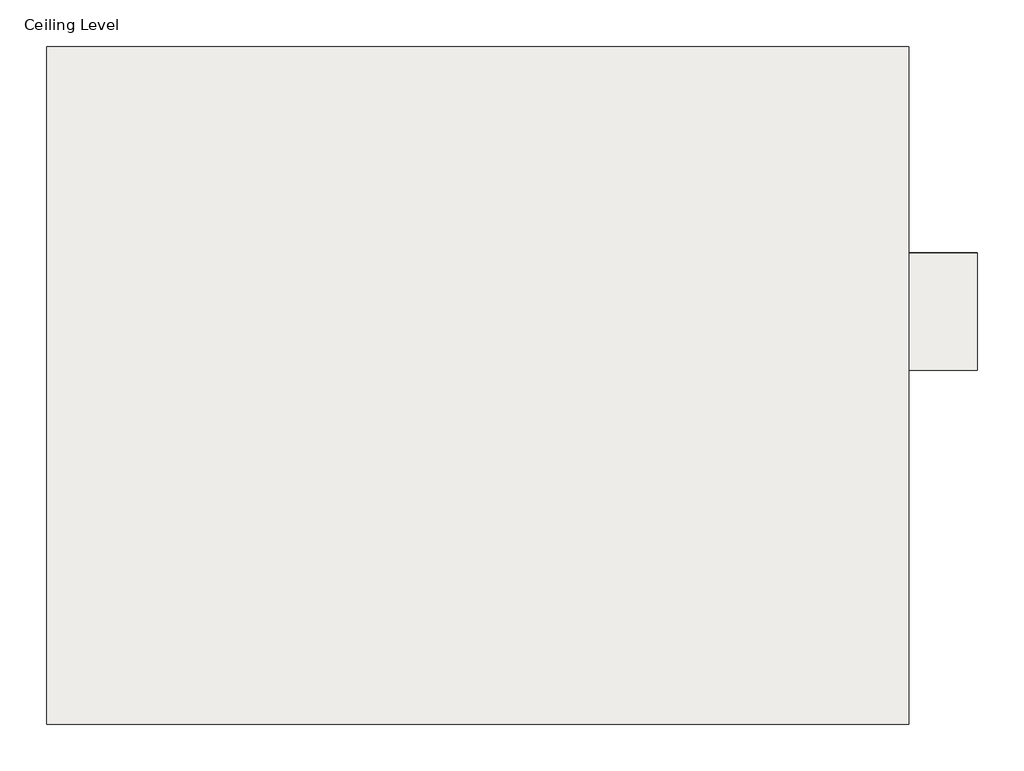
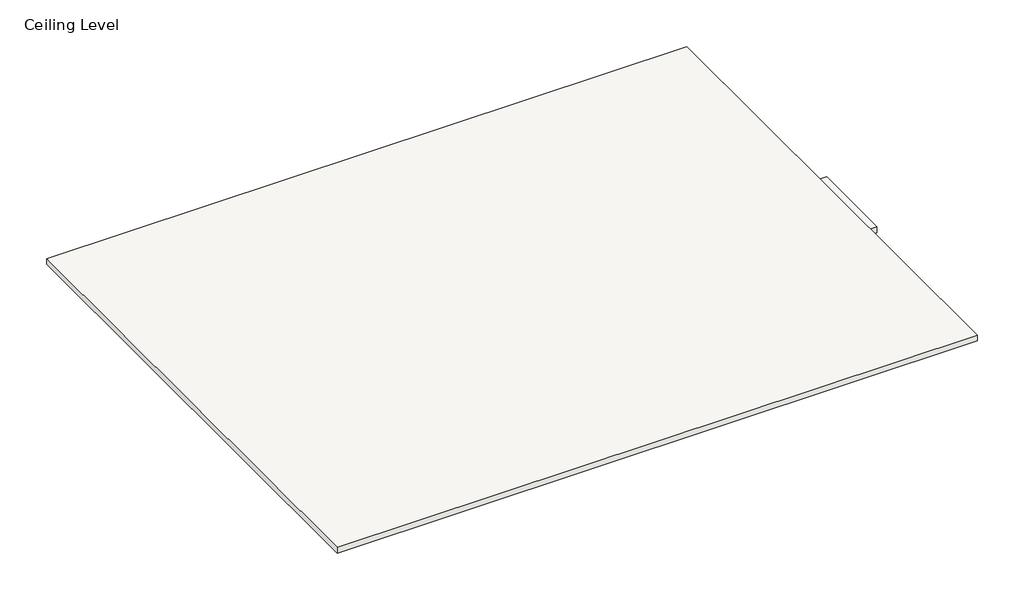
# One storey: 5 coverings.
"""IFC4 building model written with IfcOpenShell, lengths in millimetres."""

import ifcopenshell
import ifcopenshell.guid

model = None  # the IFC model being written
_history = None  # IfcOwnerHistory: only IFC2X3 demands one
_inside = {}  # id of a spatial element -> (the spatial element, [elements in it])
_under = {}  # id of a project, library or spatial element -> (it, [spatial elements below it])
_declared = {}  # id of a project -> (the project, [libraries it declares])
_typed = {}  # id of a type object -> (the type object, [elements of that type])
_made_of = {}  # id of a material, layer set ... -> (it, [elements and type objects made of it])


def new_model(schema):
    """Start an empty IFC model of exactly this schema.

    Asked for "IFC4X3", IfcOpenShell would pick the latest addendum, in which some entities
    have other attributes; the version numbers below select the first issue.
    IFC2X3 requires an IfcOwnerHistory on every rooted entity: one is made here for all.
    """
    global model, _history
    if schema == "IFC4X3":
        model = ifcopenshell.file(schema_version=(4, 3, 0, 0))
    else:
        model = ifcopenshell.file(schema=schema)
    _inside.clear()
    _under.clear()
    _declared.clear()
    _typed.clear()
    _made_of.clear()
    _history = None
    if model.schema == "IFC2X3":
        org = make("IfcOrganization", Name="unknown")
        user = make(
            "IfcPersonAndOrganization",
            ThePerson=make("IfcPerson", FamilyName="unknown"),
            TheOrganization=org,
        )
        app = make(
            "IfcApplication",
            ApplicationDeveloper=org,
            Version="unknown",
            ApplicationFullName="unknown",
            ApplicationIdentifier="unknown",
        )
        _history = make(
            "IfcOwnerHistory",
            OwningUser=user,
            OwningApplication=app,
            ChangeAction="ADDED",
            CreationDate=0,
        )
    return model


def make(cls, **values):
    """One entity of the class cls with the attributes given. An attribute that is None is left unset."""
    return model.create_entity(
        cls, **{name: value for name, value in values.items() if value is not None}
    )


def rooted(cls, **values):
    """An entity with a GlobalId (a new one), such as an element, a storey or a relation."""
    return make(cls, GlobalId=ifcopenshell.guid.new(), OwnerHistory=_history, **values)


def si_unit(unit_type, name, prefix=None):
    """IfcSIUnit, for example si_unit("LENGTHUNIT", "METRE", prefix="MILLI")."""
    return make("IfcSIUnit", UnitType=unit_type, Prefix=prefix, Name=name)


def assignment(units):
    """IfcUnitAssignment: the units of a project."""
    return None if units is None else make("IfcUnitAssignment", Units=units)


def point(xyz):
    """IfcCartesianPoint."""
    return None if xyz is None else make("IfcCartesianPoint", Coordinates=xyz)


def direction(xyz):
    """IfcDirection."""
    return None if xyz is None else make("IfcDirection", DirectionRatios=xyz)


def frame(location, z_axis=None, x_axis=None):
    """IfcAxis2Placement3D, a coordinate frame: its origin and axes. An axis left out is left unset."""
    return make(
        "IfcAxis2Placement3D",
        Location=point(location),
        Axis=direction(z_axis),
        RefDirection=direction(x_axis),
    )


def origin():
    """The frame at (0, 0, 0) with its axes left unset."""
    return frame((0.0, 0.0, 0.0))


def place(relative_to, where):
    """IfcLocalPlacement: puts the frame where relative to a parent placement (None: the world)."""
    return make(
        "IfcLocalPlacement", PlacementRelTo=relative_to, RelativePlacement=where
    )


def context(
    kind, dimensions, precision=None, world=None, true_north=None, identifier=None
):
    """IfcGeometricRepresentationContext, for example the 3D "Model" context."""
    return make(
        "IfcGeometricRepresentationContext",
        ContextIdentifier=identifier,
        ContextType=kind,
        CoordinateSpaceDimension=dimensions,
        Precision=precision,
        WorldCoordinateSystem=world,
        TrueNorth=true_north,
    )


def project(units=None, contexts=None):
    """IfcProject with its units and contexts."""
    return rooted(
        "IfcProject",
        Name="project",
        RepresentationContexts=contexts,
        UnitsInContext=assignment(units),
    )


def spatial(cls, under=None, at=None, **own):
    """A site, building, storey or space (cls), placed at a placement, below another one or the project."""
    s = rooted(cls, ObjectPlacement=at, **own)
    if under is not None:
        _under.setdefault(under.id(), (under, []))[1].append(s)
    return s


def polyline(points):
    """IfcPolyline through the points."""
    return make("IfcPolyline", Points=[point(p) for p in points])


def outline(outer, holes=None, kind="AREA"):
    """IfcArbitraryClosedProfileDef: a profile drawn as a closed curve; with holes, ...WithVoids."""
    if holes is None:
        return make("IfcArbitraryClosedProfileDef", ProfileType=kind, OuterCurve=outer)
    return make(
        "IfcArbitraryProfileDefWithVoids",
        ProfileType=kind,
        OuterCurve=outer,
        InnerCurves=holes,
    )


def extrude(swept, where, along, depth):
    """IfcExtrudedAreaSolid: the profile swept, set in the frame where, extruded along a direction by depth."""
    return make(
        "IfcExtrudedAreaSolid",
        SweptArea=swept,
        Position=where,
        ExtrudedDirection=direction(along),
        Depth=depth,
    )


def shape(context_of_items, identifier, shape_type, items):
    """IfcShapeRepresentation: the items that make up one representation, for example the "Body"."""
    return make(
        "IfcShapeRepresentation",
        ContextOfItems=context_of_items,
        RepresentationIdentifier=identifier,
        RepresentationType=shape_type,
        Items=items,
    )


def made_of(thing, what):
    """Note that an element or type object is made of a material, layer set ...; save() writes the relation."""
    if what is not None:
        _made_of.setdefault(what.id(), (what, []))[1].append(thing)
    return thing


def element(
    cls,
    number,
    at=None,
    inside=None,
    cuts=None,
    type_object=None,
    material=None,
    context=None,
    identifier="Body",
    shape_type=None,
    held_by="IfcProductDefinitionShape",
    body=None,
    shapes=None,
    **own,
):
    """One element of the class cls, such as IfcWall. Its Tag is "e" and its number.

    at: its placement. inside: the storey or other place that contains it. cuts: it is an
    opening in that element (IfcRelVoidsElement). A single representation is given by context,
    identifier, shape_type and body (its items); several are given by shapes. held_by: the class
    of the entity that holds the representations. save() writes the other relations.
    """
    e = rooted(cls, Tag="e%d" % number, ObjectPlacement=at, **own)
    if body is not None:
        shapes = [shape(context, identifier, shape_type, body)]
    if shapes is not None:
        e.Representation = make(held_by, Representations=shapes)
    if inside is not None:
        _inside.setdefault(inside.id(), (inside, []))[1].append(e)
    if cuts is not None:
        rooted(
            "IfcRelVoidsElement", RelatingBuildingElement=cuts, RelatedOpeningElement=e
        )
    if type_object is not None:
        _typed.setdefault(type_object.id(), (type_object, []))[1].append(e)
    return made_of(e, material)


def aggregate(whole, parts):
    """IfcRelAggregates: a whole, such as a stair, and the parts it consists of."""
    return rooted("IfcRelAggregates", RelatingObject=whole, RelatedObjects=parts)


def save(model, path):
    """Write the relations noted so far, then the file.

    IfcRelAggregates (storeys below a building ...), IfcRelContainedInSpatialStructure (elements
    in a storey), IfcRelDefinesByType, IfcRelAssociatesMaterial and IfcRelDeclares: one each for
    every whole, place, type object, material and project.
    """
    for whole, parts in _under.values():
        aggregate(whole, parts)
    for where, things in _inside.values():
        rooted(
            "IfcRelContainedInSpatialStructure",
            RelatedElements=things,
            RelatingStructure=where,
        )
    for kind, things in _typed.values():
        rooted("IfcRelDefinesByType", RelatedObjects=things, RelatingType=kind)
    for what, things in _made_of.values():
        rooted("IfcRelAssociatesMaterial", RelatedObjects=things, RelatingMaterial=what)
    for by, libraries in _declared.values():
        rooted("IfcRelDeclares", RelatingContext=by, RelatedDefinitions=libraries)
    model.write(path)


model = new_model("IFC4")

# Units and contexts
model_context = context("Model", 3, world=origin())
ifc_project = project(units=[si_unit("LENGTHUNIT", "METRE", prefix="MILLI")], contexts=[model_context])

# Site, building, storey
site = spatial("IfcSite", under=ifc_project)
building = spatial("IfcBuilding", under=site)
storey = spatial("IfcBuildingStorey", under=building, Name="Ceiling Level", Elevation=0.0)

# Coverings
placement = place(None, origin())
element("IfcCovering", 1, ObjectType="Rockfon Blanka dB 41 A24 (white) 600 x 600 x 35 mm", at=placement, inside=storey, context=model_context, shape_type="SweptSolid", body=[
    extrude(outline(polyline([(-7026.7423739, 8843.6758075), (-7026.7423739, 5943.6758075), (-10716.7423739, 5943.6758075), (-10716.7423739, 8843.6758075), (-7026.7423739, 8843.6758075)])), frame((0.0, 0.0, 1.0), z_axis=(0.0, 0.0, 1.0), x_axis=(1.0, 0.0, 0.0)), (0.0, 0.0, 1.0), 35.0),
])
element("IfcCovering", 2, ObjectType="Rockfon Blanka dB 41 E24 (white) 600 x 600 x 35 mm", at=placement, inside=storey, context=model_context, shape_type="SweptSolid", body=[
    extrude(outline(polyline([(-6733.0033126, 7959.4000562), (-6733.0033126, 7459.4000562), (-7133.0033126, 7459.4000562), (-7133.0033126, 7959.4000562), (-6733.0033126, 7959.4000562)])), frame((0.0, 0.0, -768.9653438), z_axis=(0.0, 0.0, 1.0), x_axis=(1.0, 0.0, 0.0)), (0.0, 0.0, 1.0), 35.0),
])
element("IfcCovering", 3, ObjectType="Rockfon Blanka dB 41 E15 (white) 600 x 600 x 35 mm", at=placement, inside=storey, context=model_context, shape_type="SweptSolid", body=[
    extrude(outline(polyline([(-6733.0033126, 7958.9130096), (-6733.0033126, 7458.9130096), (-7133.0033126, 7458.9130096), (-7133.0033126, 7958.9130096), (-6733.0033126, 7958.9130096)])), frame((0.0, 0.0, -644.7822127), z_axis=(0.0, 0.0, 1.0), x_axis=(1.0, 0.0, 0.0)), (0.0, 0.0, 1.0), 35.0),
])
element("IfcCovering", 4, ObjectType="Rockfon Blanka dB 41 A24 (white) 600 x 600 x 35 mm", at=placement, inside=storey, context=model_context, shape_type="SweptSolid", body=[
    extrude(outline(polyline([(-6733.0033126, 7958.8427436), (-6733.0033126, 7458.8427436), (-7133.0033126, 7458.8427436), (-7133.0033126, 7958.8427436), (-6733.0033126, 7958.8427436)])), frame((0.0, 0.0, -360.0102455), z_axis=(0.0, 0.0, 1.0), x_axis=(1.0, 0.0, 0.0)), (0.0, 0.0, 1.0), 35.0),
])
element("IfcCovering", 5, ObjectType="Rockfon Blanka dB 41 D (white) 600 x 600 x 35 mm", at=placement, inside=storey, context=model_context, shape_type="SweptSolid", body=[
    extrude(outline(polyline([(-6733.0033126, 7962.0122862), (-6733.0033126, 7462.0122862), (-7133.0033126, 7462.0122862), (-7133.0033126, 7962.0122862), (-6733.0033126, 7962.0122862)])), frame((0.0, 0.0, -511.1918608), z_axis=(0.0, 0.0, 1.0), x_axis=(1.0, 0.0, 0.0)), (0.0, 0.0, 1.0), 35.0),
])

save(model, "model.ifc")
